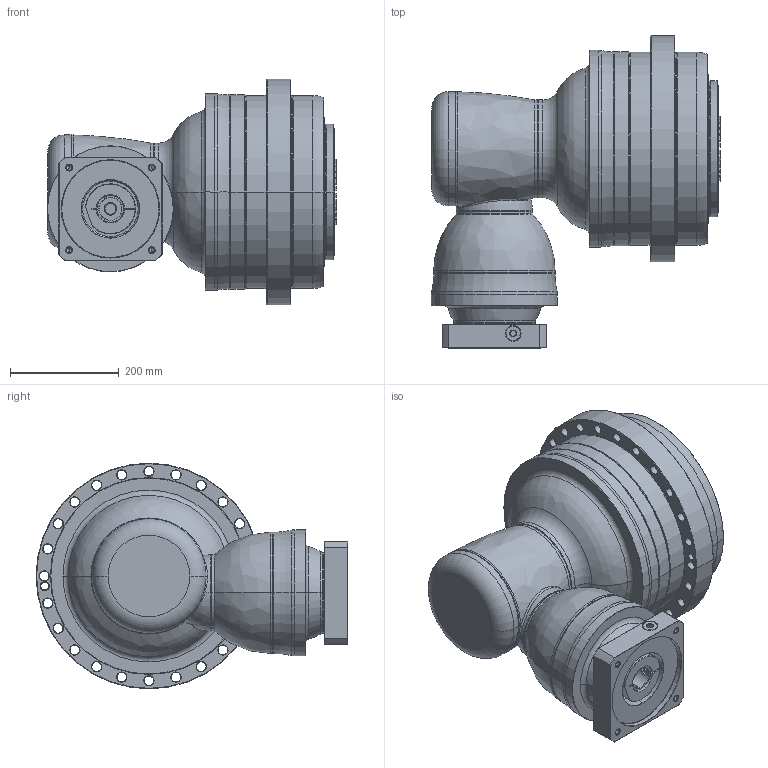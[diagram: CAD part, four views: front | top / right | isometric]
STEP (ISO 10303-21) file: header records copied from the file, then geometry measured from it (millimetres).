
FILE_DESCRIPTION((''),'2;1');
FILE_NAME('APCK355_4ST_42-P0409A00201_ASM','2018-05-17T',('d01226'),(''),'PRO/ENGINEER BY PARAMETRIC TECHNOLOGY CORPORATION, 2008410','PRO/ENGINEER BY PARAMETRIC TECHNOLOGY CORPORATION, 2008410','');
FILE_SCHEMA(('CONFIG_CONTROL_DESIGN'));
Length unit declared in the file: millimetre
Products named in the file (13): P1008600002; P1315600001; P1007601001; P1317610501; P0409A00201; P0503A00012; P0912505001; 21711422019; P1821110001; P0276101003; P03571G0103; P1222100001; APCK355_4ST_42-P0409A00201_ASM
Assembly tree (12 placements, depth 2):
  APCK355_4ST_42-P0409A00201_ASM
    P1008600002
    P1315600001
    P1007601001
    P1317610501
    P0409A00201
    P0503A00012
    P0912505001
    21711422019
    P1821110001
    P0276101003
    P03571G0103
    P1222100001
Bounding box: 532.1 x 573.5 x 415 mm (x, y, z)
Volume: 44889458.3 mm3; surface area: 2087166 mm2
Topology: 13 solids, 25 shells, 830 faces, 1987 edges, 1216 vertices
Faces by surface type: cone 260, cylinder 229, plane 156, torus 150, bspline 33, sphere 2
Entity records: 32161 total; most frequent: CARTESIAN_POINT 12414, DIRECTION 4413, ORIENTED_EDGE 3896, EDGE_CURVE 1973, AXIS2_PLACEMENT_3D 1957, VERTEX_POINT 1216, CIRCLE 1123, EDGE_LOOP 945
